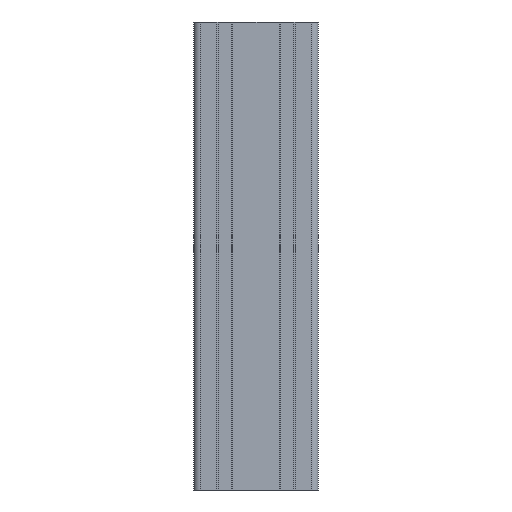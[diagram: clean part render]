
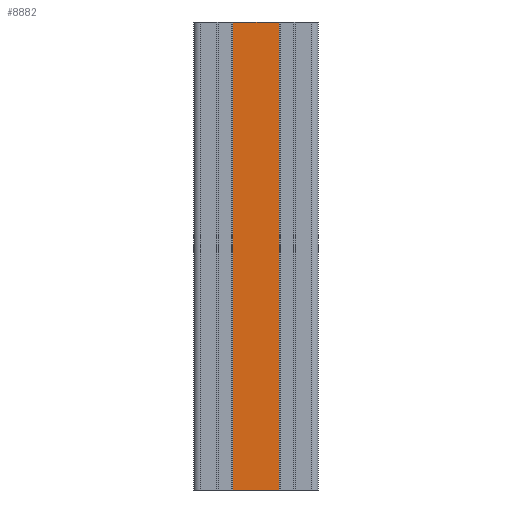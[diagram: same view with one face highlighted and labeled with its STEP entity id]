
A CAD part, left-side view. The second image highlights one B-rep face of the part: STEP entity #8882.
In plain terms, the highlighted planar face has unit normal (-1, 0, 0).
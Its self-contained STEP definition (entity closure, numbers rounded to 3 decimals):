
#90 = VECTOR ( 'NONE', #5187, 1000. ) ;
#768 = VERTEX_POINT ( 'NONE', #10097 ) ;
#954 = CARTESIAN_POINT ( 'NONE',  ( -40., 14.9, 150. ) ) ;
#992 = ORIENTED_EDGE ( 'NONE', *, *, #1475, .F. ) ;
#1181 = DIRECTION ( 'NONE',  ( 0., 0., -1. ) ) ;
#1475 = EDGE_CURVE ( 'NONE', #3885, #1931, #9830, .T. ) ;
#1571 = EDGE_CURVE ( 'NONE', #1812, #768, #4759, .T. ) ;
#1812 = VERTEX_POINT ( 'NONE', #4343 ) ;
#1931 = VERTEX_POINT ( 'NONE', #5326 ) ;
#1957 = VECTOR ( 'NONE', #11432, 1000. ) ;
#2157 = LINE ( 'NONE', #954, #1957 ) ;
#2378 = DIRECTION ( 'NONE',  ( 1., 0., 0. ) ) ;
#2399 = DIRECTION ( 'NONE',  ( 0., 0., -1. ) ) ;
#2426 = EDGE_CURVE ( 'NONE', #1812, #3885, #2157, .T. ) ;
#3153 = CARTESIAN_POINT ( 'NONE',  ( -40., -14.9, 150. ) ) ;
#3538 = CARTESIAN_POINT ( 'NONE',  ( -40., 0., 150. ) ) ;
#3557 = CARTESIAN_POINT ( 'NONE',  ( -40., 14.9, 150. ) ) ;
#3885 = VERTEX_POINT ( 'NONE', #3153 ) ;
#4343 = CARTESIAN_POINT ( 'NONE',  ( -40., 14.9, 150. ) ) ;
#4736 = PLANE ( 'NONE',  #10460 ) ;
#4759 = LINE ( 'NONE', #3557, #7448 ) ;
#5187 = DIRECTION ( 'NONE',  ( 0., -1., 0. ) ) ;
#5326 = CARTESIAN_POINT ( 'NONE',  ( -40., -14.9, -150. ) ) ;
#6210 = ORIENTED_EDGE ( 'NONE', *, *, #1571, .T. ) ;
#6377 = CARTESIAN_POINT ( 'NONE',  ( -40., 0., -150. ) ) ;
#7394 = DIRECTION ( 'NONE',  ( 0., 0., -1. ) ) ;
#7448 = VECTOR ( 'NONE', #2399, 1000. ) ;
#7592 = LINE ( 'NONE', #6377, #90 ) ;
#8599 = CARTESIAN_POINT ( 'NONE',  ( -40., -14.9, 150. ) ) ;
#8882 = ADVANCED_FACE ( 'NONE', ( #10144 ), #4736, .F. ) ;
#9241 = EDGE_CURVE ( 'NONE', #768, #1931, #7592, .T. ) ;
#9562 = ORIENTED_EDGE ( 'NONE', *, *, #9241, .T. ) ;
#9830 = LINE ( 'NONE', #8599, #11639 ) ;
#10091 = EDGE_LOOP ( 'NONE', ( #9562, #992, #11153, #6210 ) ) ;
#10097 = CARTESIAN_POINT ( 'NONE',  ( -40., 14.9, -150. ) ) ;
#10144 = FACE_OUTER_BOUND ( 'NONE', #10091, .T. ) ;
#10460 = AXIS2_PLACEMENT_3D ( 'NONE', #3538, #2378, #1181 ) ;
#11153 = ORIENTED_EDGE ( 'NONE', *, *, #2426, .F. ) ;
#11432 = DIRECTION ( 'NONE',  ( 0., -1., 0. ) ) ;
#11639 = VECTOR ( 'NONE', #7394, 1000. ) ;
